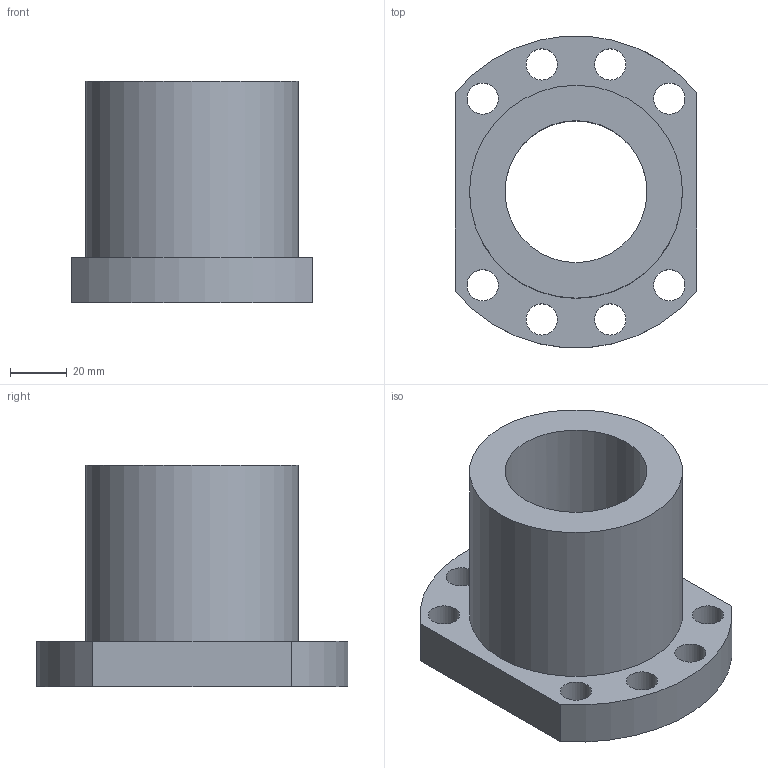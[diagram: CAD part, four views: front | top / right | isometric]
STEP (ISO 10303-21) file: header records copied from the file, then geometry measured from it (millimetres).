
FILE_DESCRIPTION(/* description */ (''),/* implementation_level */ '2;1');
FILE_NAME(/* name */ '50-10T3',/* time_stamp */ '2007-05-17T17:55:37+08:00',/* author */ (''),/* organization */ (''),/* preprocessor_version */ 'ST-DEVELOPER v9',/* originating_system */ 'UGS - NX 4.0',/* authorisation */ '');
FILE_SCHEMA (('CONFIG_CONTROL_DESIGN'));
Length unit declared in the file: millimetre
Products named in the file (1): 50-10T3
Bounding box: 85 x 109.65 x 78 mm (x, y, z)
Volume: 240575.6 mm3; surface area: 48346.4 mm2
Topology: 1 solids, 1 shells, 20 faces, 48 edges, 32 vertices
Faces by surface type: cylinder 14, plane 6
Full cylindrical faces by diameter (mm): 6 x1, 8 x1, 11 x8, 50 x1, 75 x1
Entity records: 774 total; most frequent: CARTESIAN_POINT 203, DIRECTION 102, ORIENTED_EDGE 72, EDGE_LOOP 54, AXIS2_PLACEMENT_3D 47, FACE_BOUND 46, EDGE_CURVE 36, VERTEX_POINT 32
